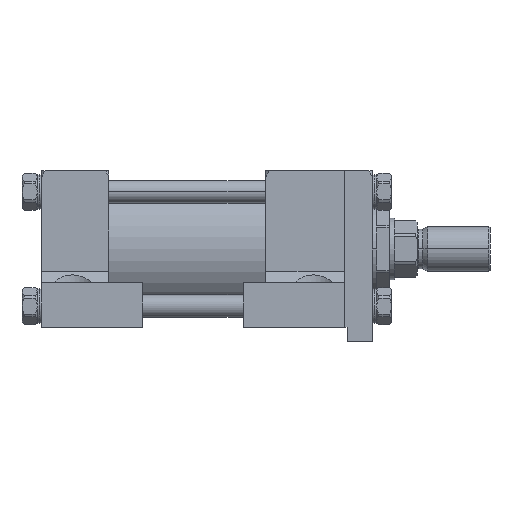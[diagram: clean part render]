
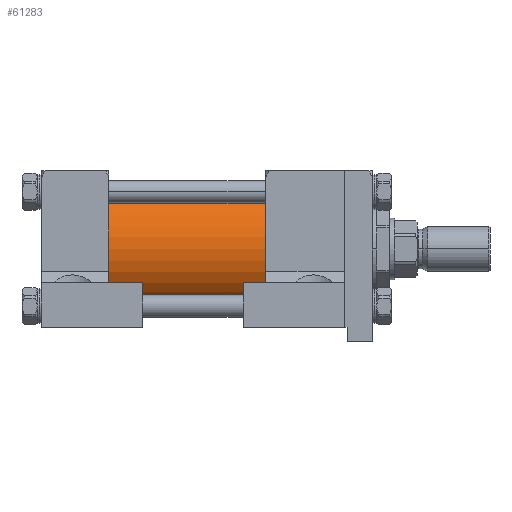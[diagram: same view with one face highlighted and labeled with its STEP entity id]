
A CAD part, front view. The second image highlights one B-rep face of the part: STEP entity #61283.
In plain terms, the highlighted cylindrical face has radius 38.1 mm (diameter 76.2 mm), a partial arc.
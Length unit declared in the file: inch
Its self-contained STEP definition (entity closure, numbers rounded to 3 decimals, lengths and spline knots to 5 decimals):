
#271 = CARTESIAN_POINT ( 'NONE',  ( -3.125, 0., 0. ) ) ;
#2066 = EDGE_CURVE ( 'NONE', #34741, #49956, #37896, .T. ) ;
#3757 = DIRECTION ( 'NONE',  ( 1., 0., 0. ) ) ;
#3997 = CARTESIAN_POINT ( 'NONE',  ( -3.125, 0., 1.5 ) ) ;
#5074 = CIRCLE ( 'NONE', #41617, 1.5 ) ;
#8496 = EDGE_CURVE ( 'NONE', #57698, #34741, #23831, .T. ) ;
#8527 = DIRECTION ( 'NONE',  ( 0., 1., 0. ) ) ;
#12031 = VERTEX_POINT ( 'NONE', #3997 ) ;
#15228 = ORIENTED_EDGE ( 'NONE', *, *, #25459, .F. ) ;
#17871 = AXIS2_PLACEMENT_3D ( 'NONE', #42143, #51064, #46608 ) ;
#18055 = CARTESIAN_POINT ( 'NONE',  ( -3.125, 0., -1.5 ) ) ;
#18260 = FACE_OUTER_BOUND ( 'NONE', #59025, .T. ) ;
#18979 = CARTESIAN_POINT ( 'NONE',  ( -7.125, 0., 0. ) ) ;
#23831 = CIRCLE ( 'NONE', #34032, 1.5 ) ;
#25459 = EDGE_CURVE ( 'NONE', #12031, #49956, #5074, .T. ) ;
#25649 = EDGE_CURVE ( 'NONE', #57698, #12031, #61495, .T. ) ;
#27825 = DIRECTION ( 'NONE',  ( 1., 0., 0. ) ) ;
#29806 = DIRECTION ( 'NONE',  ( 1., 0., 0. ) ) ;
#30886 = ORIENTED_EDGE ( 'NONE', *, *, #2066, .T. ) ;
#32338 = VECTOR ( 'NONE', #34100, 39.37008 ) ;
#34032 = AXIS2_PLACEMENT_3D ( 'NONE', #18979, #3757, #8527 ) ;
#34100 = DIRECTION ( 'NONE',  ( 1., 0., 0. ) ) ;
#34741 = VERTEX_POINT ( 'NONE', #58974 ) ;
#37896 = LINE ( 'NONE', #43940, #32338 ) ;
#38969 = DIRECTION ( 'NONE',  ( 0., 1., 0. ) ) ;
#41617 = AXIS2_PLACEMENT_3D ( 'NONE', #271, #29806, #38969 ) ;
#42143 = CARTESIAN_POINT ( 'NONE',  ( -7.125, 0., 0. ) ) ;
#42582 = CARTESIAN_POINT ( 'NONE',  ( -7.125, 0., 1.5 ) ) ;
#43940 = CARTESIAN_POINT ( 'NONE',  ( -7.125, 0., -1.5 ) ) ;
#46608 = DIRECTION ( 'NONE',  ( 0., 0., -1. ) ) ;
#47220 = CYLINDRICAL_SURFACE ( 'NONE', #17871, 1.5 ) ;
#49956 = VERTEX_POINT ( 'NONE', #18055 ) ;
#50814 = VECTOR ( 'NONE', #27825, 39.37008 ) ;
#51064 = DIRECTION ( 'NONE',  ( 1., 0., 0. ) ) ;
#55356 = ORIENTED_EDGE ( 'NONE', *, *, #8496, .T. ) ;
#56360 = ORIENTED_EDGE ( 'NONE', *, *, #25649, .F. ) ;
#57698 = VERTEX_POINT ( 'NONE', #42582 ) ;
#58974 = CARTESIAN_POINT ( 'NONE',  ( -7.125, 0., -1.5 ) ) ;
#59025 = EDGE_LOOP ( 'NONE', ( #56360, #55356, #30886, #15228 ) ) ;
#60905 = CARTESIAN_POINT ( 'NONE',  ( -7.125, 0., 1.5 ) ) ;
#61283 = ADVANCED_FACE ( 'NONE', ( #18260 ), #47220, .T. ) ;
#61495 = LINE ( 'NONE', #60905, #50814 ) ;
